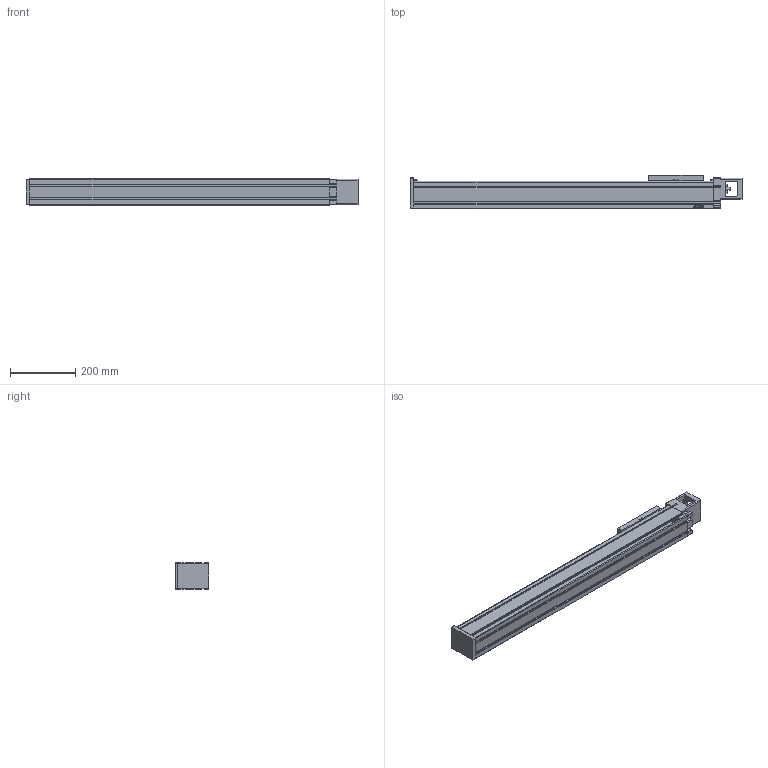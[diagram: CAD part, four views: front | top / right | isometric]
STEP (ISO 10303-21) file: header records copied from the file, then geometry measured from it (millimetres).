
FILE_DESCRIPTION(/* description */ (''),/* implementation_level */ '2;1');
FILE_NAME(/* name */ 'D:\混合母檔20191031\混和母檔\混和母檔\bin\Debug\Download\3D\KU80-20C-700AF0\KU80-20C-700AF0.stp',/* time_stamp */ '2019-11-04T17:25:57+08:00',/* author */ ('user'),/* organization */ (''),/* preprocessor_version */ 'ST-DEVELOPER v16.13',/* originating_system */ 'Autodesk Inventor 2018',/* authorisation */ '');
FILE_SCHEMA (('AUTOMOTIVE_DESIGN { 1 0 10303 214 3 1 1 }'));
Length unit declared in the file: millimetre
Products named in the file (3): KU80-20C-700AF0; KU80-F0-BP; KU80-SL
Assembly tree (2 placements, depth 2):
  KU80-20C-700AF0
    KU80-F0-BP
    KU80-SL
Bounding box: 1020 x 103 x 80 mm (x, y, z)
Volume: 6422359.5 mm3; surface area: 551854.7 mm2
Topology: 2 solids, 10 shells, 862 faces, 2315 edges, 1508 vertices
Faces by surface type: plane 509, bspline 136, cylinder 104, cone 81, torus 28, sphere 4
Full cylindrical faces by diameter (mm): 2.459 x4, 2.729 x4, 3 x4, 3.242 x4, 3.5 x4, 4.134 x16, 5 x4, 5.5 x8, 5.6 x2, 8 x1, 8.5 x4, 12 x1, 46.5 x1
Entity records: 27990 total; most frequent: CARTESIAN_POINT 7413, ORIENTED_EDGE 4362, DIRECTION 3790, EDGE_CURVE 2181, VERTEX_POINT 1469, LINE 1298, VECTOR 1298, AXIS2_PLACEMENT_3D 1246
